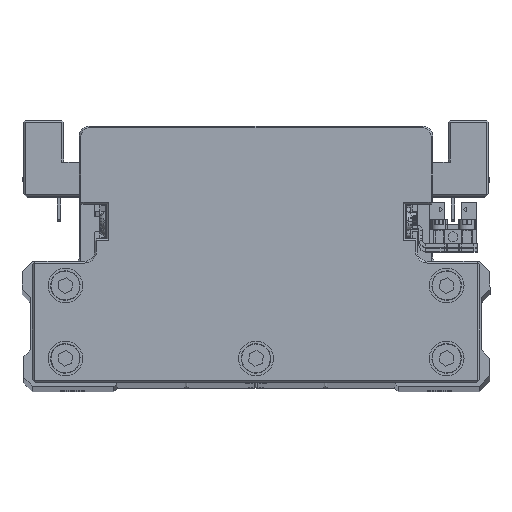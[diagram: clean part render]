
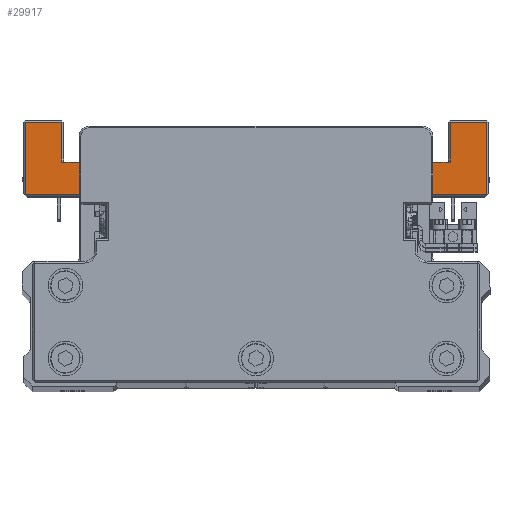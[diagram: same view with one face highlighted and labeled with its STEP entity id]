
A CAD part, top view. The second image highlights one B-rep face of the part: STEP entity #29917.
In plain terms, the highlighted planar face has unit normal (0, 0, 1) as drawn and (0, -1, 0) by its records, which use the part's own axes.
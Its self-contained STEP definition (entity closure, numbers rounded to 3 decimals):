
#14 = CARTESIAN_POINT ( 'NONE',  ( 46., -45., -54. ) ) ;
#375 = VECTOR ( 'NONE', #31324, 1000. ) ;
#421 = DIRECTION ( 'NONE',  ( -0.991, 0., 0.132 ) ) ;
#488 = FACE_OUTER_BOUND ( 'NONE', #23483, .T. ) ;
#781 = DIRECTION ( 'NONE',  ( 0., 0., -1. ) ) ;
#1101 = VERTEX_POINT ( 'NONE', #8456 ) ;
#1373 = VECTOR ( 'NONE', #3165, 1000. ) ;
#1541 = CARTESIAN_POINT ( 'NONE',  ( -66.5, -45., -43. ) ) ;
#1650 = LINE ( 'NONE', #13969, #9063 ) ;
#2168 = VERTEX_POINT ( 'NONE', #31162 ) ;
#2794 = AXIS2_PLACEMENT_3D ( 'NONE', #24002, #36330, #8636 ) ;
#3074 = LINE ( 'NONE', #15398, #18229 ) ;
#3165 = DIRECTION ( 'NONE',  ( 1., 0., 0. ) ) ;
#3482 = VECTOR ( 'NONE', #781, 1000. ) ;
#3768 = EDGE_CURVE ( 'NONE', #19565, #1101, #24262, .T. ) ;
#4485 = VECTOR ( 'NONE', #18046, 1000. ) ;
#4653 = VECTOR ( 'NONE', #8941, 1000. ) ;
#4664 = LINE ( 'NONE', #17007, #28459 ) ;
#4787 = EDGE_CURVE ( 'NONE', #14682, #34835, #6660, .T. ) ;
#5571 = VERTEX_POINT ( 'NONE', #9116 ) ;
#5671 = EDGE_CURVE ( 'NONE', #1101, #37981, #34191, .T. ) ;
#5700 = EDGE_CURVE ( 'NONE', #31898, #18257, #37428, .T. ) ;
#5720 = CARTESIAN_POINT ( 'NONE',  ( -46., -45., -52.5 ) ) ;
#5787 = AXIS2_PLACEMENT_3D ( 'NONE', #25137, #37462, #9759 ) ;
#5803 = EDGE_CURVE ( 'NONE', #34835, #36649, #1650, .T. ) ;
#5940 = VECTOR ( 'NONE', #421, 1000. ) ;
#6035 = DIRECTION ( 'NONE',  ( 0., 0., -1. ) ) ;
#6498 = CARTESIAN_POINT ( 'NONE',  ( -39.868, -45., -42.987 ) ) ;
#6579 = VERTEX_POINT ( 'NONE', #6817 ) ;
#6601 = VECTOR ( 'NONE', #22067, 1000. ) ;
#6660 = LINE ( 'NONE', #18988, #375 ) ;
#6817 = CARTESIAN_POINT ( 'NONE',  ( -66.5, -45., -64. ) ) ;
#8456 = CARTESIAN_POINT ( 'NONE',  ( -36.217, -45., -42.5 ) ) ;
#8473 = LINE ( 'NONE', #20815, #20630 ) ;
#8636 = DIRECTION ( 'NONE',  ( 0., 0., -1. ) ) ;
#8816 = EDGE_CURVE ( 'NONE', #12032, #27785, #8473, .T. ) ;
#8869 = DIRECTION ( 'NONE',  ( -1., 0., 0. ) ) ;
#8915 = EDGE_CURVE ( 'NONE', #30755, #24149, #27693, .T. ) ;
#8941 = DIRECTION ( 'NONE',  ( 0., 0., -1. ) ) ;
#9063 = VECTOR ( 'NONE', #26293, 1000. ) ;
#9116 = CARTESIAN_POINT ( 'NONE',  ( 46., -45., -52.5 ) ) ;
#9205 = ORIENTED_EDGE ( 'NONE', *, *, #4787, .T. ) ;
#9725 = CARTESIAN_POINT ( 'NONE',  ( -55.5, -45., -52.5 ) ) ;
#9759 = DIRECTION ( 'NONE',  ( 0., 0., -1. ) ) ;
#9967 = EDGE_CURVE ( 'NONE', #29494, #34487, #38480, .T. ) ;
#10375 = CARTESIAN_POINT ( 'NONE',  ( -39.868, -45., -42.987 ) ) ;
#10415 = EDGE_CURVE ( 'NONE', #37675, #18257, #4664, .T. ) ;
#10775 = CARTESIAN_POINT ( 'NONE',  ( 56., -45., -64.5 ) ) ;
#11615 = VECTOR ( 'NONE', #12329, 1000. ) ;
#12032 = VERTEX_POINT ( 'NONE', #33134 ) ;
#12329 = DIRECTION ( 'NONE',  ( 1., 0., 0. ) ) ;
#12626 = LINE ( 'NONE', #24947, #39924 ) ;
#12782 = AXIS2_PLACEMENT_3D ( 'NONE', #21384, #33722, #6035 ) ;
#12806 = PLANE ( 'NONE',  #5787 ) ;
#13621 = CARTESIAN_POINT ( 'NONE',  ( 36.217, -45., -42.5 ) ) ;
#13969 = CARTESIAN_POINT ( 'NONE',  ( 40.066, -45., -43. ) ) ;
#14043 = ORIENTED_EDGE ( 'NONE', *, *, #31451, .F. ) ;
#14682 = VERTEX_POINT ( 'NONE', #19599 ) ;
#14955 = EDGE_CURVE ( 'NONE', #36649, #2168, #30200, .T. ) ;
#15398 = CARTESIAN_POINT ( 'NONE',  ( 55.5, -45., -52.5 ) ) ;
#15771 = LINE ( 'NONE', #28111, #5940 ) ;
#16124 = LINE ( 'NONE', #28472, #3482 ) ;
#17007 = CARTESIAN_POINT ( 'NONE',  ( -56., -45., -52.5 ) ) ;
#17067 = ORIENTED_EDGE ( 'NONE', *, *, #34199, .T. ) ;
#17069 = ORIENTED_EDGE ( 'NONE', *, *, #32513, .F. ) ;
#17234 = ORIENTED_EDGE ( 'NONE', *, *, #14955, .T. ) ;
#18046 = DIRECTION ( 'NONE',  ( 0., 0., 1. ) ) ;
#18229 = VECTOR ( 'NONE', #27727, 1000. ) ;
#18257 = VERTEX_POINT ( 'NONE', #23476 ) ;
#18517 = LINE ( 'NONE', #30855, #1373 ) ;
#18810 = ORIENTED_EDGE ( 'NONE', *, *, #8915, .T. ) ;
#18823 = DIRECTION ( 'NONE',  ( -0.991, 0., -0.132 ) ) ;
#18858 = VECTOR ( 'NONE', #18823, 1000. ) ;
#18935 = ORIENTED_EDGE ( 'NONE', *, *, #5803, .T. ) ;
#18988 = CARTESIAN_POINT ( 'NONE',  ( 66.5, -45., -43.5 ) ) ;
#19087 = CARTESIAN_POINT ( 'NONE',  ( 46., -45., -54. ) ) ;
#19565 = VERTEX_POINT ( 'NONE', #13621 ) ;
#19599 = CARTESIAN_POINT ( 'NONE',  ( 66.5, -45., -64. ) ) ;
#20198 = CIRCLE ( 'NONE', #2794, 1.5 ) ;
#20630 = VECTOR ( 'NONE', #33166, 1000. ) ;
#20815 = CARTESIAN_POINT ( 'NONE',  ( -66., -45., -43. ) ) ;
#20919 = ORIENTED_EDGE ( 'NONE', *, *, #9967, .T. ) ;
#21384 = CARTESIAN_POINT ( 'NONE',  ( 40.066, -45., -41.5 ) ) ;
#21553 = ORIENTED_EDGE ( 'NONE', *, *, #35366, .T. ) ;
#22067 = DIRECTION ( 'NONE',  ( -1., 0., 0. ) ) ;
#23113 = DIRECTION ( 'NONE',  ( 0., 0., -1. ) ) ;
#23242 = VECTOR ( 'NONE', #23113, 1000. ) ;
#23476 = CARTESIAN_POINT ( 'NONE',  ( -56., -45., -52.5 ) ) ;
#23483 = EDGE_LOOP ( 'NONE', ( #36644, #30047, #27451, #25750, #33077, #17067, #38539, #37767, #25015, #18810, #17069, #14043, #20919, #25119, #9205, #18935, #17234, #21553 ) ) ;
#23580 = CARTESIAN_POINT ( 'NONE',  ( -56., -45., -64. ) ) ;
#24002 = CARTESIAN_POINT ( 'NONE',  ( -40.066, -45., -41.5 ) ) ;
#24149 = VERTEX_POINT ( 'NONE', #19087 ) ;
#24262 = LINE ( 'NONE', #36571, #26763 ) ;
#24329 = LINE ( 'NONE', #36645, #4653 ) ;
#24947 = CARTESIAN_POINT ( 'NONE',  ( 67., -45., -64. ) ) ;
#25015 = ORIENTED_EDGE ( 'NONE', *, *, #29745, .F. ) ;
#25119 = ORIENTED_EDGE ( 'NONE', *, *, #28053, .T. ) ;
#25137 = CARTESIAN_POINT ( 'NONE',  ( 0., -45., 0. ) ) ;
#25750 = ORIENTED_EDGE ( 'NONE', *, *, #8816, .T. ) ;
#26293 = DIRECTION ( 'NONE',  ( -1., 0., 0. ) ) ;
#26763 = VECTOR ( 'NONE', #8869, 1000. ) ;
#26988 = CARTESIAN_POINT ( 'NONE',  ( 40.066, -45., -43. ) ) ;
#27451 = ORIENTED_EDGE ( 'NONE', *, *, #36238, .T. ) ;
#27693 = LINE ( 'NONE', #14, #11615 ) ;
#27727 = DIRECTION ( 'NONE',  ( -1., 0., 0. ) ) ;
#27785 = VERTEX_POINT ( 'NONE', #1541 ) ;
#28053 = EDGE_CURVE ( 'NONE', #34487, #14682, #12626, .T. ) ;
#28111 = CARTESIAN_POINT ( 'NONE',  ( 25.802, -45., -41.111 ) ) ;
#28459 = VECTOR ( 'NONE', #29350, 1000. ) ;
#28472 = CARTESIAN_POINT ( 'NONE',  ( 46., -45., -52.5 ) ) ;
#29350 = DIRECTION ( 'NONE',  ( 0., 0., 1. ) ) ;
#29375 = CARTESIAN_POINT ( 'NONE',  ( 66.5, -45., -43. ) ) ;
#29494 = VERTEX_POINT ( 'NONE', #31050 ) ;
#29745 = EDGE_CURVE ( 'NONE', #30755, #31898, #33424, .T. ) ;
#29917 = ADVANCED_FACE ( 'NONE', ( #488 ), #12806, .T. ) ;
#30047 = ORIENTED_EDGE ( 'NONE', *, *, #5671, .T. ) ;
#30200 = CIRCLE ( 'NONE', #12782, 1.5 ) ;
#30755 = VERTEX_POINT ( 'NONE', #34331 ) ;
#30855 = CARTESIAN_POINT ( 'NONE',  ( -55.5, -45., -64. ) ) ;
#31050 = CARTESIAN_POINT ( 'NONE',  ( 56., -45., -52.5 ) ) ;
#31162 = CARTESIAN_POINT ( 'NONE',  ( 39.868, -45., -42.987 ) ) ;
#31324 = DIRECTION ( 'NONE',  ( 0., 0., 1. ) ) ;
#31451 = EDGE_CURVE ( 'NONE', #29494, #5571, #3074, .T. ) ;
#31898 = VERTEX_POINT ( 'NONE', #39821 ) ;
#32513 = EDGE_CURVE ( 'NONE', #5571, #24149, #16124, .T. ) ;
#32656 = CARTESIAN_POINT ( 'NONE',  ( 56., -45., -64. ) ) ;
#33077 = ORIENTED_EDGE ( 'NONE', *, *, #39400, .T. ) ;
#33134 = CARTESIAN_POINT ( 'NONE',  ( -40.066, -45., -43. ) ) ;
#33166 = DIRECTION ( 'NONE',  ( -1., 0., 0. ) ) ;
#33424 = LINE ( 'NONE', #5720, #4485 ) ;
#33722 = DIRECTION ( 'NONE',  ( 0., 1., 0. ) ) ;
#34191 = LINE ( 'NONE', #6498, #18858 ) ;
#34199 = EDGE_CURVE ( 'NONE', #6579, #37675, #18517, .T. ) ;
#34331 = CARTESIAN_POINT ( 'NONE',  ( -46., -45., -54. ) ) ;
#34487 = VERTEX_POINT ( 'NONE', #32656 ) ;
#34835 = VERTEX_POINT ( 'NONE', #29375 ) ;
#35366 = EDGE_CURVE ( 'NONE', #2168, #19565, #15771, .T. ) ;
#36238 = EDGE_CURVE ( 'NONE', #37981, #12032, #20198, .T. ) ;
#36330 = DIRECTION ( 'NONE',  ( 0., 1., 0. ) ) ;
#36571 = CARTESIAN_POINT ( 'NONE',  ( -77.786, -45., -42.5 ) ) ;
#36644 = ORIENTED_EDGE ( 'NONE', *, *, #3768, .T. ) ;
#36645 = CARTESIAN_POINT ( 'NONE',  ( -66.5, -45., -64.5 ) ) ;
#36649 = VERTEX_POINT ( 'NONE', #26988 ) ;
#37269 = DIRECTION ( 'NONE',  ( 1., 0., 0. ) ) ;
#37428 = LINE ( 'NONE', #9725, #6601 ) ;
#37462 = DIRECTION ( 'NONE',  ( 0., -1., 0. ) ) ;
#37675 = VERTEX_POINT ( 'NONE', #23580 ) ;
#37767 = ORIENTED_EDGE ( 'NONE', *, *, #5700, .F. ) ;
#37981 = VERTEX_POINT ( 'NONE', #10375 ) ;
#38480 = LINE ( 'NONE', #10775, #23242 ) ;
#38539 = ORIENTED_EDGE ( 'NONE', *, *, #10415, .T. ) ;
#39400 = EDGE_CURVE ( 'NONE', #27785, #6579, #24329, .T. ) ;
#39821 = CARTESIAN_POINT ( 'NONE',  ( -46., -45., -52.5 ) ) ;
#39924 = VECTOR ( 'NONE', #37269, 1000. ) ;
